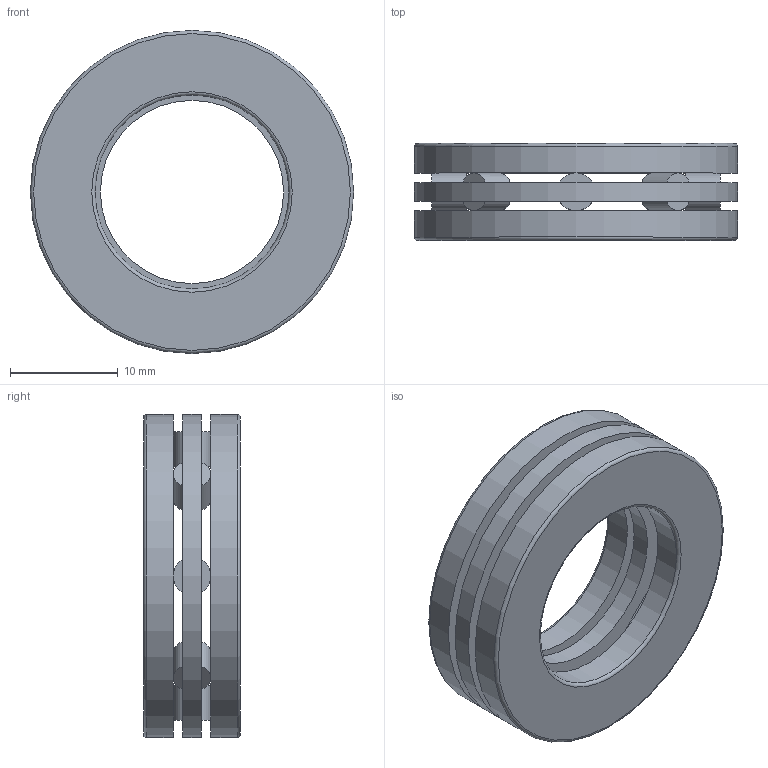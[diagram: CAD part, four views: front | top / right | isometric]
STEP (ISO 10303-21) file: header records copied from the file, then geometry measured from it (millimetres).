
FILE_DESCRIPTION(/* description */ (''),/* implementation_level */ '2;1');
FILE_NAME(/* name */ 'D:\moje\parametrické\Axiálne valčekové lo\X2\017E\X0\iská\811--\811--_\81103.stp',/* time_stamp */ '2016-09-27T08:30:47+02:00',/* author */ ('OUBALASKO'),/* organization */ (''),/* preprocessor_version */ 'ST-DEVELOPER v15.6',/* originating_system */ 'Autodesk Inventor 2015',/* authorisation */ '');
FILE_SCHEMA (('AUTOMOTIVE_DESIGN { 1 0 10303 214 3 1 1 }'));
Length unit declared in the file: millimetre
Products named in the file (6): GS81103; WS81103; 81103-cage; 81103-roller; K81103TNG; 81103
Assembly tree (12 placements, depth 3):
  81103
    GS81103
    WS81103
    K81103TNG
      81103-cage
      81103-roller  x8
Bounding box: 30 x 9 x 30 mm (x, y, z)
Volume: 3472.7 mm3; surface area: 4302.7 mm2
Topology: 11 solids, 11 shells, 72 faces, 146 edges, 96 vertices
Faces by surface type: plane 54, cylinder 14, torus 4
Full cylindrical faces by diameter (mm): 3.5 x8, 17 x2, 18 x1, 30 x3
Entity records: 1657 total; most frequent: DIRECTION 270, CARTESIAN_POINT 265, ORIENTED_EDGE 228, EDGE_CURVE 114, LINE 96, VECTOR 96, AXIS2_PLACEMENT_3D 87, EDGE_LOOP 84
